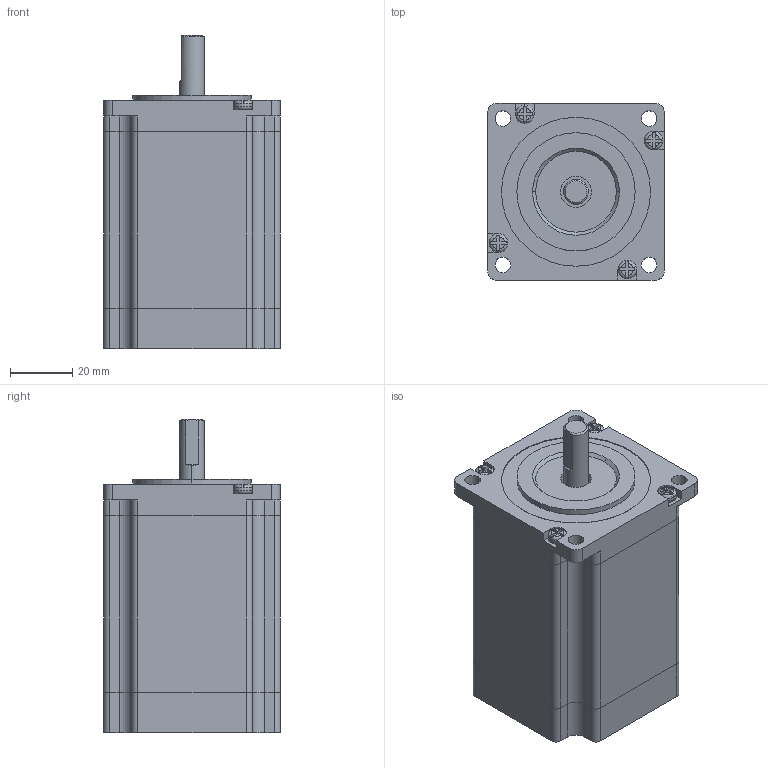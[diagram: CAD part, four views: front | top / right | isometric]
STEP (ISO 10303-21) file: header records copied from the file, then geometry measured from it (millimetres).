
FILE_DESCRIPTION (( 'STEP AP214' ), '1' );
FILE_NAME ('ÝL-XSM57-22N5A R1.STEP', '2020-05-28T07:28:09', ( '' ), ( '' ), 'SwSTEP 2.0', 'SolidWorks 2017', '' );
FILE_SCHEMA (( 'AUTOMOTIVE_DESIGN' ));
Length unit declared in the file: millimetre
Products named in the file (5): 尳-XSM57-22N5A R1; 3; 4; 2; 1
Assembly tree (7 placements, depth 2):
  尳-XSM57-22N5A R1
    1  x4
    2
    3
    4
Bounding box: 57 x 57 x 101 mm (x, y, z)
Volume: 236841 mm3; surface area: 37553.4 mm2
Topology: 7 solids, 7 shells, 249 faces, 657 edges, 432 vertices
Faces by surface type: plane 142, cylinder 79, torus 16, cone 12
Entity records: 5803 total; most frequent: CARTESIAN_POINT 1022, DIRECTION 993, ORIENTED_EDGE 930, EDGE_CURVE 465, AXIS2_PLACEMENT_3D 359, VERTEX_POINT 306, LINE 275, VECTOR 275
